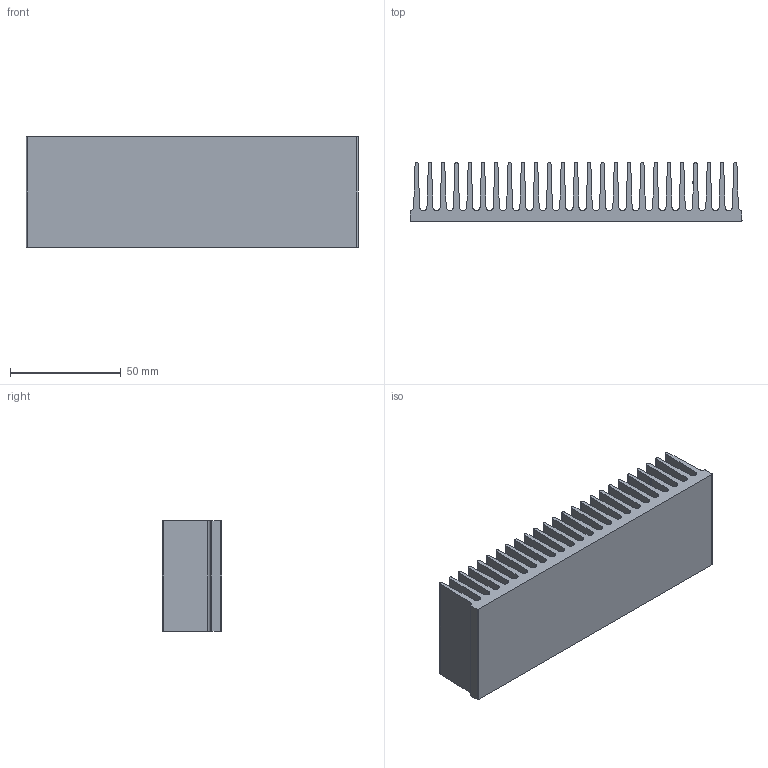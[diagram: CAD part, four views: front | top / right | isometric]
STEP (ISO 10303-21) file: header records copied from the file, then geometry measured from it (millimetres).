
FILE_DESCRIPTION (( 'STEP AP203' ), '1' );
FILE_NAME ('PR 160-50.step', '2002-10-20T23:55:13', ( 'Wolfgang Müller' ), ( 'DPS' ), 'SwSTEP 2.0', 'SolidWorks 2002264', '' );
FILE_SCHEMA (( 'CONFIG_CONTROL_DESIGN' ));
Length unit declared in the file: millimetre
Products named in the file (1): PR 160-50
Bounding box: 150 x 27 x 50 mm (x, y, z)
Volume: 95739.1 mm3; surface area: 70203 mm2
Topology: 1 solids, 1 shells, 115 faces, 339 edges, 226 vertices
Faces by surface type: plane 60, cylinder 55
Entity records: 3940 total; most frequent: CARTESIAN_POINT 681, DIRECTION 681, ORIENTED_EDGE 678, EDGE_CURVE 339, LINE 229, VECTOR 229, VERTEX_POINT 226, AXIS2_PLACEMENT_3D 226
